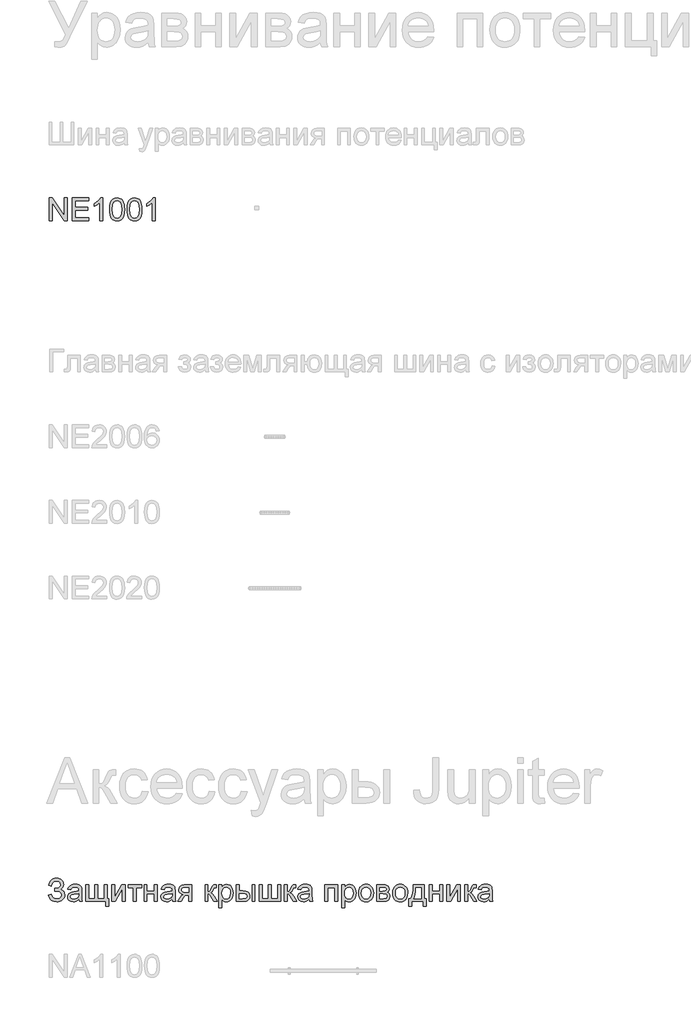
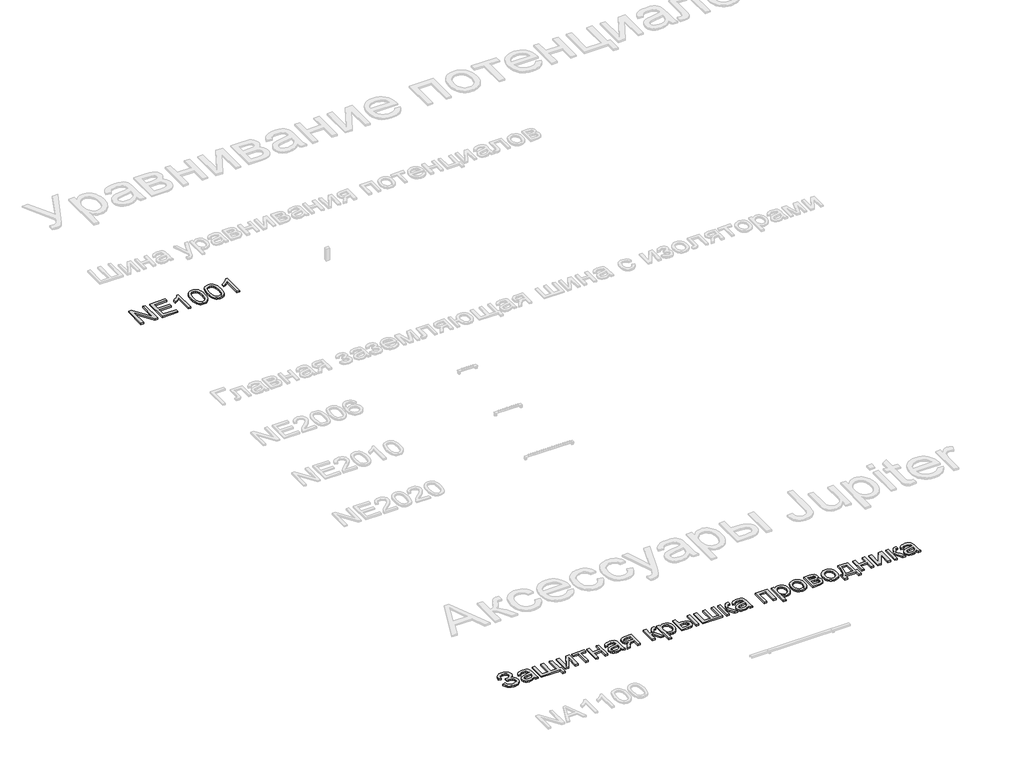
# One storey, part 79 of 124: 2 proxies.
"""IFC4 building model written with IfcOpenShell, lengths in millimetres."""

from ifc_helpers import new_model, si_unit, origin, origin_with_axes, place, context, project, spatial, polyline, outline, extrude, element, save

model = new_model("IFC4")

# Units and contexts
model_context = context("Model", 3, world=origin())
ifc_project = project(units=[si_unit("LENGTHUNIT", "METRE", prefix="MILLI")], contexts=[model_context])

# Site, building, storey
site = spatial("IfcSite", under=ifc_project)
building = spatial("IfcBuilding", under=site)
storey = spatial("IfcBuildingStorey", under=building, Name="Этаж 01", Elevation=0.0)

# Proxies
placement = place(None, origin())
element("IfcBuildingElementProxy", 1, Name="300", ObjectType="300", at=placement, inside=storey, context=model_context, shape_type="SweptSolid", body=[
    extrude(outline(polyline([(45239.8675381, -51074.498362), (45239.8675381, -50773.1294316), (45280.1874048, -50773.1294316), (45437.6408988, -51011.8848464), (45437.6408988, -50773.1294316), (45475.3120151, -50773.1294316), (45475.3120151, -51074.498362), (45434.9921484, -51074.498362), (45277.5386545, -50835.6693707), (45277.5386545, -51074.498362), (45239.8675381, -51074.498362)])), origin_with_axes(), (0.0, 0.0, 1.0), 20.0),
    extrude(outline(polyline([(45541.2364686, -51074.498362), (45541.2364686, -50773.1294316), (45757.8453874, -50773.1294316), (45757.8453874, -50810.8005479), (45578.9075849, -50810.8005479), (45578.9075849, -50900.2694491), (45748.4276083, -50900.2694491), (45748.4276083, -50937.9405654), (45578.9075849, -50937.9405654), (45578.9075849, -51036.8272457), (45762.5542769, -51036.8272457), (45762.5542769, -51074.498362), (45541.2364686, -51074.498362)])), origin_with_axes(), (0.0, 0.0, 1.0), 20.0),
    extrude(outline(polyline([(45946.2009689, -51074.498362), (45908.5298526, -51074.498362), (45908.5298526, -50839.6424963), (45872.8452991, -50865.0631421), (45833.18762, -50884.0826413), (45833.18762, -50848.4716642), (45862.7745294, -50832.3768269), (45888.4067074, -50813.228569), (45908.612626, -50792.8663006), (45921.9207572, -50773.1294316), (45946.2009689, -50773.1294316), (45946.2009689, -51074.498362)])), origin_with_axes(), (0.0, 0.0, 1.0), 20.0),
    extrude(outline(polyline([(46035.6698701, -50926.2419179), (46038.4381821, -50878.0033913), (46046.7431182, -50839.5321317), (46060.5019048, -50810.2395278), (46079.6317685, -50789.5369685), (46104.2706652, -50777.2313158), (46134.5565504, -50773.1294316), (46157.7699043, -50775.5574527), (46178.555237, -50782.8415162), (46195.9376613, -50794.6965135), (46208.9422898, -50810.8373361), (46218.7647391, -50831.1260281), (46226.6006256, -50855.4246339), (46231.7325794, -50886.2807362), (46233.4432307, -50926.2419179), (46230.7025099, -50974.2045331), (46222.4803473, -51012.5838222), (46208.8043341, -51041.9040172), (46189.7020615, -51062.68935), (46165.0079826, -51075.0777761), (46134.5565504, -51079.2072515), (46113.8080059, -51077.4138268), (46095.4139061, -51072.0335526), (46079.3742511, -51063.066429), (46065.6890409, -51050.5124559), (46052.5556537, -51027.8187353), (46043.1746628, -50999.5424055), (46037.5460683, -50965.6834664), (46035.6698701, -50926.2419179)]), holes=[polyline([(46073.3409864, -50926.1683415), (46077.7555704, -50985.4249339), (46083.2738003, -51005.6929326), (46090.9993222, -51019.7207329), (46110.7177971, -51036.0822847), (46134.5565504, -51041.5361352), (46158.3953037, -51036.0638906), (46178.1137786, -51019.6471565), (46185.8393005, -51005.5963636), (46191.3575305, -50985.3329634), (46195.7721144, -50926.1683415), (46191.5046833, -50868.2453214), (46186.1703943, -50848.0440013), (46178.7023898, -50833.682808), (46159.0207031, -50816.5211129), (46134.115092, -50810.8005479), (46110.5338561, -50815.8405312), (46091.5879334, -50830.9604812), (46083.6048941, -50846.595466), (46077.9027232, -50867.6751043), (46073.3409864, -50926.1683415)])]), origin_with_axes(), (0.0, 0.0, 1.0), 20.0),
    extrude(outline(polyline([(46266.4054575, -50926.2419179), (46269.1737695, -50878.0033913), (46277.4787055, -50839.5321317), (46291.2374922, -50810.2395278), (46310.3673559, -50789.5369685), (46335.0062525, -50777.2313158), (46365.2921378, -50773.1294316), (46388.5054917, -50775.5574527), (46409.2908244, -50782.8415162), (46426.6732487, -50794.6965135), (46439.6778772, -50810.8373361), (46449.5003265, -50831.1260281), (46457.336213, -50855.4246339), (46462.4681668, -50886.2807362), (46464.1788181, -50926.2419179), (46461.4380972, -50974.2045331), (46453.2159346, -51012.5838222), (46439.5399215, -51041.9040172), (46420.4376489, -51062.68935), (46395.7435699, -51075.0777761), (46365.2921378, -51079.2072515), (46344.5435933, -51077.4138268), (46326.1494935, -51072.0335526), (46310.1098385, -51063.066429), (46296.4246283, -51050.5124559), (46283.2912411, -51027.8187353), (46273.9102502, -50999.5424055), (46268.2816557, -50965.6834664), (46266.4054575, -50926.2419179)]), holes=[polyline([(46304.0765738, -50926.1683415), (46308.4911577, -50985.4249339), (46314.0093877, -51005.6929326), (46321.7349096, -51019.7207329), (46341.4533845, -51036.0822847), (46365.2921378, -51041.5361352), (46389.1308911, -51036.0638906), (46408.849366, -51019.6471565), (46416.5748879, -51005.5963636), (46422.0931178, -50985.3329634), (46426.5077018, -50926.1683415), (46422.2402706, -50868.2453214), (46416.9059817, -50848.0440013), (46409.4379772, -50833.682808), (46389.7562905, -50816.5211129), (46364.8506794, -50810.8005479), (46341.2694435, -50815.8405312), (46322.3235208, -50830.9604812), (46314.3404815, -50846.595466), (46308.6383105, -50867.6751043), (46304.0765738, -50926.1683415)])]), origin_with_axes(), (0.0, 0.0, 1.0), 20.0),
    extrude(outline(polyline([(46638.407731, -51074.498362), (46600.7366147, -51074.498362), (46600.7366147, -50839.6424963), (46565.0520612, -50865.0631421), (46525.3943821, -50884.0826413), (46525.3943821, -50848.4716642), (46554.9812916, -50832.3768269), (46580.6134696, -50813.228569), (46600.8193882, -50792.8663006), (46614.1275193, -50773.1294316), (46638.407731, -50773.1294316), (46638.407731, -51074.498362)])), origin_with_axes(), (0.0, 0.0, 1.0), 20.0),
])
element("IfcBuildingElementProxy", 2, Name="300", ObjectType="300", at=placement, inside=storey, context=model_context, shape_type="SweptSolid", body=[
    extrude(outline(polyline([(45225.7408695, -59989.7383503), (45263.4119858, -59980.3205712), (45271.367434, -60000.7104308), (45286.5517633, -60021.1186845), (45308.4131509, -60036.4317726), (45336.3997737, -60041.5361352), (45364.7542785, -60037.7009654), (45386.3949368, -60026.195456), (45400.1077382, -60009.2636872), (45404.678672, -59989.1497391), (45399.6846739, -59968.0792978), (45384.7026797, -59951.8097166), (45361.1122467, -59941.4078532), (45330.2929326, -59937.9405654), (45310.5008812, -59937.9405654), (45310.5008812, -59900.2694491), (45353.1384045, -59897.2160285), (45367.0351468, -59891.7897691), (45379.2212379, -59881.6178319), (45387.719312, -59868.2177303), (45390.5520034, -59853.1069773), (45386.7812129, -59835.3658681), (45375.4688416, -59820.1079623), (45357.7185353, -59809.5957343), (45334.6339401, -59806.0916583), (45313.7658339, -59808.7863939), (45296.1902716, -59816.8706008), (45282.7257906, -59829.4061798), (45274.1909283, -59845.4550318), (45268.1208754, -59872.0161119), (45230.4497591, -59862.5983328), (45242.153005, -59821.3955493), (45251.5673352, -59805.2087415), (45263.3568035, -59791.9649897), (45277.52141, -59781.6642938), (45294.0611546, -59774.3066539), (45312.9760373, -59769.89207), (45334.2660581, -59768.420542), (45354.7777786, -59769.9495516), (45373.0500175, -59774.5365802), (45389.0827747, -59782.1816279), (45402.8760502, -59792.8846947), (45413.9653931, -59805.6341051), (45421.8863523, -59819.4181836), (45426.6389278, -59834.2369302), (45428.2231197, -59850.0903449), (45425.7583103, -59869.914586), (45418.3638822, -59887.3751852), (45406.0398354, -59902.4721425), (45388.7861698, -59915.2054581), (45409.7370494, -59924.8531634), (45426.9723209, -59941.1411388), (45438.5054214, -59962.6714325), (45442.3497883, -59988.0460931), (45440.5057798, -60006.6770169), (45434.9737543, -60023.7214496), (45425.7537118, -60039.1793912), (45412.8456523, -60053.0508417), (45396.8933693, -60064.494271), (45378.5406562, -60072.6681491), (45357.7875132, -60077.5724759), (45334.6339401, -60079.2072515), (45296.4293949, -60073.6154452), (45280.0724417, -60066.6256873), (45265.5457014, -60056.8400262), (45252.8491741, -60044.258462), (45241.9828596, -60028.8809946), (45225.7408695, -59989.7383503)])), origin_with_axes(), (0.0, 0.0, 1.0), 20.0),
    extrude(outline(polyline([(45630.7053698, -60046.2450248), (45612.7067432, -60061.6776745), (45594.1746877, -60071.7760352), (45574.686139, -60077.3494475), (45553.8180328, -60079.2072515), (45522.3365311, -60074.7374853), (45499.1139802, -60061.3281866), (45484.7941735, -60040.9659181), (45480.0209046, -60015.6372428), (45481.8235264, -60000.0206521), (45487.2313917, -59985.8388012), (45495.5731159, -59973.6986953), (45506.1773145, -59964.2073398), (45532.5544535, -59951.8465048), (45565.1487983, -59946.1811221), (45603.6660432, -59940.2214338), (45630.4846406, -59933.2316759), (45630.7053698, -59924.8439664), (45628.1118018, -59908.0317592), (45620.3310976, -59897.0320875), (45602.9302792, -59888.8651072), (45578.6868557, -59886.1427805), (45556.246054, -59887.9545993), (45540.574281, -59893.3900558), (45529.887309, -59903.4424313), (45522.4009104, -59919.1050072), (45484.7297941, -59914.3961177), (45491.2688966, -59893.794726), (45501.0269665, -59877.6079182), (45514.9145118, -59865.228689), (45533.8420405, -59856.0500333), (45556.991015, -59850.3662564), (45583.542898, -59848.4716642), (45609.0095292, -59850.1455272), (45629.1970536, -59855.1671165), (45644.4181712, -59862.7178944), (45654.9855815, -59871.9793237), (45661.9937335, -59883.4296508), (45666.5370762, -59897.5471223), (45668.3764861, -59930.5093491), (45668.3764861, -59977.3775153), (45670.2894725, -60042.8237222), (45677.7942652, -60074.498362), (45640.1231489, -60074.498362), (45630.7053698, -60046.2450248)]), holes=[polyline([(45630.7053698, -59970.9027922), (45569.9312642, -59982.4542868), (45537.5208604, -59988.5611279), (45522.8423688, -59998.4939418), (45517.6920209, -60012.9884924), (45520.4971211, -60024.1904992), (45528.9124218, -60033.3691549), (45542.7539818, -60039.4943902), (45561.8378603, -60041.5361352), (45582.0713701, -60039.282858), (45599.950435, -60032.5230264), (45614.4449856, -60022.5626213), (45624.5249523, -60010.707624), (45628.9947185, -59998.4939418), (45630.4846406, -59981.57137), (45630.7053698, -59970.9027922)])]), origin_with_axes(), (0.0, 0.0, 1.0), 20.0),
    extrude(outline(polyline([(45720.1742711, -59853.1805537), (45757.8453874, -59853.1805537), (45757.8453874, -60036.8272457), (45842.605399, -60036.8272457), (45842.605399, -59853.1805537), (45880.2765154, -59853.1805537), (45880.2765154, -60036.8272457), (45965.036527, -60036.8272457), (45965.036527, -59853.1805537), (46002.7076433, -59853.1805537), (46002.7076433, -60036.8272457), (46026.252091, -60036.8272457), (46026.252091, -60135.713926), (45988.5809747, -60135.713926), (45988.5809747, -60074.498362), (45720.1742711, -60074.498362), (45720.1742711, -59853.1805537)])), origin_with_axes(), (0.0, 0.0, 1.0), 20.0),
    extrude(outline(polyline([(46063.9232073, -59853.1805537), (46101.5943237, -59853.1805537), (46101.5943237, -60021.9648131), (46194.1534336, -59853.1805537), (46242.8610098, -59853.1805537), (46242.8610098, -60074.498362), (46205.1898935, -60074.498362), (46205.1898935, -59906.7441722), (46113.2193947, -60074.498362), (46063.9232073, -60074.498362), (46063.9232073, -59853.1805537)])), origin_with_axes(), (0.0, 0.0, 1.0), 20.0),
    extrude(outline(polyline([(46280.5321261, -59853.1805537), (46459.4699286, -59853.1805537), (46459.4699286, -59890.85167), (46388.8365855, -59890.85167), (46388.8365855, -60074.498362), (46351.1654692, -60074.498362), (46351.1654692, -59890.85167), (46280.5321261, -59890.85167), (46280.5321261, -59853.1805537)])), origin_with_axes(), (0.0, 0.0, 1.0), 20.0),
    extrude(outline(polyline([(46492.4321553, -59853.1805537), (46530.1032716, -59853.1805537), (46530.1032716, -59937.9405654), (46628.9899519, -59937.9405654), (46628.9899519, -59853.1805537), (46666.6610682, -59853.1805537), (46666.6610682, -60074.498362), (46628.9899519, -60074.498362), (46628.9899519, -59975.6116817), (46530.1032716, -59975.6116817), (46530.1032716, -60074.498362), (46492.4321553, -60074.498362), (46492.4321553, -59853.1805537)])), origin_with_axes(), (0.0, 0.0, 1.0), 20.0),
    extrude(outline(polyline([(46864.4344288, -60046.2450248), (46846.4358022, -60061.6776745), (46827.9037467, -60071.7760352), (46808.415198, -60077.3494475), (46787.5470919, -60079.2072515), (46756.0655901, -60074.7374853), (46732.8430392, -60061.3281866), (46718.5232325, -60040.9659181), (46713.7499636, -60015.6372428), (46715.5525854, -60000.0206521), (46720.9604507, -59985.8388012), (46729.302175, -59973.6986953), (46739.9063735, -59964.2073398), (46766.2835125, -59951.8465048), (46798.8778573, -59946.1811221), (46837.3951022, -59940.2214338), (46864.2136997, -59933.2316759), (46864.4344288, -59924.8439664), (46861.8408608, -59908.0317592), (46854.0601566, -59897.0320875), (46836.6593382, -59888.8651072), (46812.4159147, -59886.1427805), (46789.975113, -59887.9545993), (46774.30334, -59893.3900558), (46763.6163681, -59903.4424313), (46756.1299695, -59919.1050072), (46718.4588532, -59914.3961177), (46724.9979556, -59893.794726), (46734.7560256, -59877.6079182), (46748.6435709, -59865.228689), (46767.5710995, -59856.0500333), (46790.7200741, -59850.3662564), (46817.2719571, -59848.4716642), (46842.7385882, -59850.1455272), (46862.9261127, -59855.1671165), (46878.1472302, -59862.7178944), (46888.7146405, -59871.9793237), (46895.7227925, -59883.4296508), (46900.2661352, -59897.5471223), (46902.1055452, -59930.5093491), (46902.1055452, -59977.3775153), (46904.0185315, -60042.8237222), (46911.5233242, -60074.498362), (46873.8522079, -60074.498362), (46864.4344288, -60046.2450248)]), holes=[polyline([(46864.4344288, -59970.9027922), (46803.6603232, -59982.4542868), (46771.2499195, -59988.5611279), (46756.5714279, -59998.4939418), (46751.4210799, -60012.9884924), (46754.2261801, -60024.1904992), (46762.6414808, -60033.3691549), (46776.4830409, -60039.4943902), (46795.5669194, -60041.5361352), (46815.8004291, -60039.282858), (46833.6794941, -60032.5230264), (46848.1740447, -60022.5626213), (46858.2540113, -60010.707624), (46862.7237776, -59998.4939418), (46864.2136997, -59981.57137), (46864.4344288, -59970.9027922)])]), origin_with_axes(), (0.0, 0.0, 1.0), 20.0),
    extrude(outline(polyline([(47123.4233535, -59853.1805537), (47123.4233535, -60074.498362), (47085.7522371, -60074.498362), (47085.7522371, -59989.7383503), (47065.2244218, -59989.7383503), (47037.2653902, -59994.5208163), (47026.1001716, -60004.9502708), (47010.9986157, -60026.6737026), (46980.9794449, -60074.498362), (46937.4222167, -60074.498362), (46975.2404858, -60014.018562), (46991.9423284, -59992.3135243), (47007.3197958, -59982.675016), (46981.5680561, -59974.7839472), (46963.468262, -59959.7927559), (46952.7628959, -59939.8535518), (46949.1944405, -59917.1184445), (46954.068877, -59891.3299166), (46968.6921863, -59870.9124659), (46992.5493337, -59857.6135317), (47025.1252843, -59853.1805537), (47123.4233535, -59853.1805537)]), holes=[polyline([(47085.7522371, -59890.85167), (47036.0881678, -59890.85167), (47010.4375957, -59893.0313708), (46995.8786657, -59899.5704733), (46989.1188341, -59909.0342376), (46986.8655568, -59919.987924), (46990.1856919, -59934.3445189), (47000.1460969, -59944.3049239), (47018.5493937, -59950.1266565), (47047.1982041, -59952.067234), (47085.7522371, -59952.067234), (47085.7522371, -59890.85167)])]), origin_with_axes(), (0.0, 0.0, 1.0), 20.0),
    extrude(outline(polyline([(47297.6522664, -59853.1805537), (47335.3233827, -59853.1805537), (47335.3233827, -59947.3583445), (47350.6456678, -59945.6660873), (47360.5600875, -59940.5893158), (47369.3340731, -59927.3455639), (47381.2350557, -59901.1523659), (47398.4151448, -59867.1232813), (47413.5718831, -59856.0500333), (47441.1262445, -59853.1805537), (47448.3367316, -59853.1805537), (47448.3367316, -59891.0723992), (47438.1831885, -59890.85167), (47419.7890888, -59894.8247956), (47406.8396425, -59919.620042), (47391.6461161, -59946.4386395), (47370.3457486, -59959.5720267), (47382.2835194, -59964.874126), (47394.1109255, -59974.2321242), (47417.434644, -60005.1158177), (47457.7545107, -60074.498362), (47414.9330464, -60074.498362), (47375.4225202, -60006.5873457), (47355.5568924, -59977.8557619), (47346.267872, -59972.6410346), (47335.3233827, -59970.9027922), (47335.3233827, -60074.498362), (47297.6522664, -60074.498362), (47297.6522664, -59853.1805537)])), origin_with_axes(), (0.0, 0.0, 1.0), 20.0),
    extrude(outline(polyline([(47481.2989584, -60159.2583737), (47481.2989584, -59853.1805537), (47518.9700747, -59853.1805537), (47518.9700747, -59890.115906), (47531.2573333, -59871.8965502), (47545.0161199, -59858.8827246), (47561.0557749, -59851.0744293), (47580.1856387, -59848.4716642), (47605.6614668, -59852.1136959), (47627.9367216, -59863.0397912), (47646.073304, -59880.5877623), (47659.1331148, -59904.0954218), (47667.0241836, -59931.8521184), (47669.6545399, -59962.1472007), (47666.6838928, -59994.3644664), (47657.7719514, -60023.1788237), (47643.2038244, -60047.1279416), (47623.2646203, -60064.7494891), (47600.0420694, -60075.5928109), (47575.6239019, -60079.2072515), (47558.305857, -60076.7884274), (47542.8456162, -60069.5319551), (47529.6110614, -60058.5782687), (47518.9700747, -60045.0678024), (47518.9700747, -60159.2583737), (47481.2989584, -60159.2583737)]), holes=[polyline([(47518.9700747, -59965.6052914), (47523.0443678, -59999.3768586), (47535.2672471, -60022.9948827), (47553.3026619, -60036.9008221), (47574.8145615, -60041.5361352), (47596.6759491, -60036.7352752), (47615.1712164, -60022.3326951), (47627.7803718, -59997.8501483), (47631.9834236, -59962.8093883), (47627.8815393, -59929.2217621), (47615.5758866, -59905.2726442), (47597.5680629, -59890.9252464), (47576.3596659, -59886.1427805), (47555.0684954, -59891.2287491), (47536.370893, -59906.4866548), (47523.3202793, -59931.4382511), (47518.9700747, -59965.6052914)])]), origin_with_axes(), (0.0, 0.0, 1.0), 20.0),
    extrude(outline(polyline([(47919.2256854, -59853.1805537), (47956.8968017, -59853.1805537), (47956.8968017, -60074.498362), (47919.2256854, -60074.498362), (47919.2256854, -59853.1805537)])), origin_with_axes(), (0.0, 0.0, 1.0), 20.0),
    extrude(outline(polyline([(47712.0345457, -59853.1805537), (47749.705662, -59853.1805537), (47749.705662, -59933.2316759), (47796.2795226, -59933.2316759), (47836.53501, -59937.9497624), (47852.7517082, -59943.8473707), (47866.3610427, -59952.1040222), (47877.1284889, -59962.4346085), (47884.8195218, -59974.554021), (47889.4341416, -59988.4622596), (47890.9723482, -60004.1593245), (47885.8128032, -60031.1158777), (47870.3341683, -60053.8601821), (47858.4722732, -60062.8893858), (47843.5247679, -60069.338817), (47804.3729265, -60074.498362), (47712.0345457, -60074.498362), (47712.0345457, -59853.1805537)]), holes=[polyline([(47749.705662, -60036.8272457), (47788.4068479, -60036.8272457), (47818.4076246, -60034.84988), (47838.3652229, -60028.9177828), (47849.5672296, -60018.7918309), (47853.3012319, -60004.2329009), (47850.5329199, -59991.9272482), (47842.2279838, -59981.0563352), (47824.4684805, -59973.4411779), (47793.3364667, -59970.9027922), (47749.705662, -59970.9027922), (47749.705662, -60036.8272457)])]), origin_with_axes(), (0.0, 0.0, 1.0), 20.0),
    extrude(outline(polyline([(48013.4034762, -59853.1805537), (48051.0745925, -59853.1805537), (48051.0745925, -60036.8272457), (48135.8346042, -60036.8272457), (48135.8346042, -59853.1805537), (48173.5057205, -59853.1805537), (48173.5057205, -60036.8272457), (48258.2657322, -60036.8272457), (48258.2657322, -59853.1805537), (48295.9368485, -59853.1805537), (48295.9368485, -60074.498362), (48013.4034762, -60074.498362), (48013.4034762, -59853.1805537)])), origin_with_axes(), (0.0, 0.0, 1.0), 20.0),
    extrude(outline(polyline([(48347.7346334, -59853.1805537), (48385.4057497, -59853.1805537), (48385.4057497, -59947.3583445), (48400.7280348, -59945.6660873), (48410.6424546, -59940.5893158), (48419.4164402, -59927.3455639), (48431.3174227, -59901.1523659), (48448.4975119, -59867.1232813), (48463.6542501, -59856.0500333), (48491.2086115, -59853.1805537), (48498.4190986, -59853.1805537), (48498.4190986, -59891.0723992), (48488.2655556, -59890.85167), (48469.8714558, -59894.8247956), (48456.9220096, -59919.620042), (48441.7284832, -59946.4386395), (48420.4281156, -59959.5720267), (48432.3658864, -59964.874126), (48444.1932925, -59974.2321242), (48467.517011, -60005.1158177), (48507.8368777, -60074.498362), (48465.0154135, -60074.498362), (48425.5048872, -60006.5873457), (48405.6392594, -59977.8557619), (48396.3502391, -59972.6410346), (48385.4057497, -59970.9027922), (48385.4057497, -60074.498362), (48347.7346334, -60074.498362), (48347.7346334, -59853.1805537)])), origin_with_axes(), (0.0, 0.0, 1.0), 20.0),
    extrude(outline(polyline([(48672.6480115, -60046.2450248), (48654.6493849, -60061.6776745), (48636.1173294, -60071.7760352), (48616.6287807, -60077.3494475), (48595.7606746, -60079.2072515), (48564.2791728, -60074.7374853), (48541.0566219, -60061.3281866), (48526.7368152, -60040.9659181), (48521.9635463, -60015.6372428), (48523.7661681, -60000.0206521), (48529.1740334, -59985.8388012), (48537.5157577, -59973.6986953), (48548.1199562, -59964.2073398), (48574.4970952, -59951.8465048), (48607.09144, -59946.1811221), (48645.6086849, -59940.2214338), (48672.4272823, -59933.2316759), (48672.6480115, -59924.8439664), (48670.0544435, -59908.0317592), (48662.2737393, -59897.0320875), (48644.8729209, -59888.8651072), (48620.6294974, -59886.1427805), (48598.1886957, -59887.9545993), (48582.5169227, -59893.3900558), (48571.8299508, -59903.4424313), (48564.3435522, -59919.1050072), (48526.6724359, -59914.3961177), (48533.2115383, -59893.794726), (48542.9696082, -59877.6079182), (48556.8571536, -59865.228689), (48575.7846822, -59856.0500333), (48598.9336568, -59850.3662564), (48625.4855398, -59848.4716642), (48650.9521709, -59850.1455272), (48671.1396954, -59855.1671165), (48686.3608129, -59862.7178944), (48696.9282232, -59871.9793237), (48703.9363752, -59883.4296508), (48708.4797179, -59897.5471223), (48710.3191278, -59930.5093491), (48710.3191278, -59977.3775153), (48712.2321142, -60042.8237222), (48719.7369069, -60074.498362), (48682.0657906, -60074.498362), (48672.6480115, -60046.2450248)]), holes=[polyline([(48672.6480115, -59970.9027922), (48611.8739059, -59982.4542868), (48579.4635022, -59988.5611279), (48564.7850106, -59998.4939418), (48559.6346626, -60012.9884924), (48562.4397628, -60024.1904992), (48570.8550635, -60033.3691549), (48584.6966235, -60039.4943902), (48603.780502, -60041.5361352), (48624.0140118, -60039.282858), (48641.8930767, -60032.5230264), (48656.3876274, -60022.5626213), (48666.467594, -60010.707624), (48670.9373603, -59998.4939418), (48672.4272823, -59981.57137), (48672.6480115, -59970.9027922)])]), origin_with_axes(), (0.0, 0.0, 1.0), 20.0),
    extrude(outline(polyline([(48879.8391512, -59853.1805537), (49049.3591746, -59853.1805537), (49049.3591746, -60074.498362), (49011.6880583, -60074.498362), (49011.6880583, -59890.85167), (48917.5102675, -59890.85167), (48917.5102675, -60074.498362), (48879.8391512, -60074.498362), (48879.8391512, -59853.1805537)])), origin_with_axes(), (0.0, 0.0, 1.0), 20.0),
    extrude(outline(polyline([(49105.8658491, -60159.2583737), (49105.8658491, -59853.1805537), (49143.5369654, -59853.1805537), (49143.5369654, -59890.115906), (49155.824224, -59871.8965502), (49169.5830106, -59858.8827246), (49185.6226656, -59851.0744293), (49204.7525294, -59848.4716642), (49230.2283575, -59852.1136959), (49252.5036123, -59863.0397912), (49270.6401947, -59880.5877623), (49283.7000055, -59904.0954218), (49291.5910743, -59931.8521184), (49294.2214306, -59962.1472007), (49291.2507835, -59994.3644664), (49282.3388421, -60023.1788237), (49267.7707151, -60047.1279416), (49247.831511, -60064.7494891), (49224.6089601, -60075.5928109), (49200.1907926, -60079.2072515), (49182.8727477, -60076.7884274), (49167.4125069, -60069.5319551), (49154.1779521, -60058.5782687), (49143.5369654, -60045.0678024), (49143.5369654, -60159.2583737), (49105.8658491, -60159.2583737)]), holes=[polyline([(49143.5369654, -59965.6052914), (49147.6112585, -59999.3768586), (49159.8341378, -60022.9948827), (49177.8695526, -60036.9008221), (49199.3814522, -60041.5361352), (49221.2428398, -60036.7352752), (49239.7381071, -60022.3326951), (49252.3472625, -59997.8501483), (49256.5503143, -59962.8093883), (49252.44843, -59929.2217621), (49240.1427773, -59905.2726442), (49222.1349536, -59890.9252464), (49200.9265566, -59886.1427805), (49179.6353861, -59891.2287491), (49160.9377837, -59906.4866548), (49147.88717, -59931.4382511), (49143.5369654, -59965.6052914)])]), origin_with_axes(), (0.0, 0.0, 1.0), 20.0),
    extrude(outline(polyline([(49327.1836574, -59963.8394579), (49329.2208039, -59935.1768519), (49335.3322436, -59910.4781745), (49345.5179763, -59889.7434255), (49359.7780021, -59872.972605), (49374.134597, -59862.2534434), (49389.9811139, -59854.5968994), (49407.317553, -59850.002973), (49426.1439141, -59848.4716642), (49446.9269475, -59850.336366), (49465.7188197, -59855.9304716), (49482.5195306, -59865.2539809), (49497.3290801, -59878.306894), (49509.4163029, -59894.6477523), (49518.0500335, -59913.8350977), (49523.2302719, -59935.8689299), (49524.957018, -59960.7492491), (49521.9035974, -59998.8066415), (49512.7433357, -60027.7773486), (49497.7429474, -60049.4731893), (49477.1691468, -60065.7059823), (49452.7325853, -60075.8319342), (49426.1439141, -60079.2072515), (49405.057378, -60077.3494475), (49386.0907618, -60071.7760352), (49369.2440657, -60062.4870149), (49354.5172896, -60049.4823863), (49342.5588255, -60032.9828788), (49334.0170654, -60013.2092216), (49328.8920094, -59990.1614146), (49327.1836574, -59963.8394579)]), holes=[polyline([(49364.8547737, -59963.7658815), (49369.2141753, -59997.8593454), (49382.2923802, -60022.1487541), (49401.974067, -60036.6892899), (49426.1439141, -60041.5361352), (49450.2033965, -60036.6616988), (49469.8482951, -60022.0383895), (49482.9265, -59997.427084), (49487.2859017, -59962.5886591), (49482.8989089, -59929.4884766), (49469.7379305, -59905.5301616), (49450.0654408, -59890.9896258), (49426.1439141, -59886.1427805), (49401.974067, -59890.9712317), (49382.2923802, -59905.4565852), (49369.2141753, -59929.6908117), (49364.8547737, -59963.7658815)])]), origin_with_axes(), (0.0, 0.0, 1.0), 20.0),
    extrude(outline(polyline([(49567.3370238, -59853.1805537), (49650.3312019, -59853.1805537), (49677.0118436, -59854.4405495), (49695.8382047, -59858.220537), (49709.6889618, -59865.3574477), (49721.4427916, -59876.6882132), (49729.4718161, -59891.4494783), (49732.1481577, -59908.8778878), (49730.5294769, -59922.9217829), (49725.6734345, -59935.0342976), (49717.5616365, -59945.2706141), (49706.1756888, -59953.6859148), (49720.1184164, -59961.5126042), (49731.4859701, -59974.1033655), (49739.0459451, -59990.4649173), (49741.5659367, -60009.6039781), (49735.1831841, -60038.3171678), (49720.0080518, -60058.5322834), (49695.9853575, -60070.5068424), (49663.059919, -60074.498362), (49567.3370238, -60074.498362), (49567.3370238, -59853.1805537)]), holes=[polyline([(49605.0081401, -59937.9405654), (49642.237798, -59937.9405654), (49672.9559446, -59936.027579), (49687.8919536, -59928.3756335), (49692.8307694, -59922.0480632), (49694.4770413, -59914.5432705), (49691.5891677, -59903.3044755), (49682.9255467, -59896.0755943), (49667.2721678, -59892.1576511), (49643.4150204, -59890.85167), (49605.0081401, -59890.85167), (49605.0081401, -59937.9405654)]), polyline([(49605.0081401, -60036.8272457), (49651.2141187, -60036.8272457), (49676.3956413, -60035.1257915), (49692.196173, -60030.0214288), (49700.675853, -60020.7416055), (49703.8948204, -60006.5137693), (49702.2853367, -59997.0867932), (49697.4568855, -59988.3771869), (49690.0440633, -59981.562173), (49680.6814665, -59977.8189737), (49647.5352988, -59975.6116817), (49605.0081401, -59975.6116817), (49605.0081401, -60036.8272457)])]), origin_with_axes(), (0.0, 0.0, 1.0), 20.0),
    extrude(outline(polyline([(49779.237053, -59963.8394579), (49781.2741996, -59935.1768519), (49787.3856392, -59910.4781745), (49797.571372, -59889.7434255), (49811.8313978, -59872.972605), (49826.1879927, -59862.2534434), (49842.0345096, -59854.5968994), (49859.3709486, -59850.002973), (49878.1973097, -59848.4716642), (49898.9803432, -59850.336366), (49917.7722154, -59855.9304716), (49934.5729262, -59865.2539809), (49949.3824758, -59878.306894), (49961.4696986, -59894.6477523), (49970.1034292, -59913.8350977), (49975.2836675, -59935.8689299), (49977.0104136, -59960.7492491), (49973.9569931, -59998.8066415), (49964.7967314, -60027.7773486), (49949.796343, -60049.4731893), (49929.2225425, -60065.7059823), (49904.7859809, -60075.8319342), (49878.1973097, -60079.2072515), (49857.1107736, -60077.3494475), (49838.1441575, -60071.7760352), (49821.2974614, -60062.4870149), (49806.5706853, -60049.4823863), (49794.6122212, -60032.9828788), (49786.0704611, -60013.2092216), (49780.945405, -59990.1614146), (49779.237053, -59963.8394579)]), holes=[polyline([(49816.9081693, -59963.7658815), (49821.267571, -59997.8593454), (49834.3457759, -60022.1487541), (49854.0274627, -60036.6892899), (49878.1973097, -60041.5361352), (49902.2567922, -60036.6616988), (49921.9016908, -60022.0383895), (49934.9798957, -59997.427084), (49939.3392973, -59962.5886591), (49934.9523045, -59929.4884766), (49921.7913262, -59905.5301616), (49902.1188365, -59890.9896258), (49878.1973097, -59886.1427805), (49854.0274627, -59890.9712317), (49834.3457759, -59905.4565852), (49821.267571, -59929.6908117), (49816.9081693, -59963.7658815)])]), origin_with_axes(), (0.0, 0.0, 1.0), 20.0),
    extrude(outline(polyline([(50052.3526463, -59853.1805537), (50193.6193324, -59853.1805537), (50193.6193324, -60036.8272457), (50221.8726696, -60036.8272457), (50221.8726696, -60135.713926), (50184.2015533, -60135.713926), (50184.2015533, -60074.498362), (50028.8081986, -60074.498362), (50028.8081986, -60135.713926), (49991.1370823, -60135.713926), (49991.1370823, -60036.8272457), (50014.6815299, -60036.8272457), (50031.7972398, -60005.897567), (50043.7809958, -59964.979892), (50050.6327979, -59914.074221), (50052.3526463, -59853.1805537)]), holes=[polyline([(50085.314873, -59890.85167), (50082.2246643, -59936.9748752), (50076.4857051, -59976.6785395), (50068.0979956, -60009.962663), (50057.0615358, -60036.8272457), (50155.9482161, -60036.8272457), (50155.9482161, -59890.85167), (50085.314873, -59890.85167)])]), origin_with_axes(), (0.0, 0.0, 1.0), 20.0),
    extrude(outline(polyline([(50264.2526755, -59853.1805537), (50301.9237918, -59853.1805537), (50301.9237918, -59937.9405654), (50400.8104721, -59937.9405654), (50400.8104721, -59853.1805537), (50438.4815884, -59853.1805537), (50438.4815884, -60074.498362), (50400.8104721, -60074.498362), (50400.8104721, -59975.6116817), (50301.9237918, -59975.6116817), (50301.9237918, -60074.498362), (50264.2526755, -60074.498362), (50264.2526755, -59853.1805537)])), origin_with_axes(), (0.0, 0.0, 1.0), 20.0),
    extrude(outline(polyline([(50494.9882629, -59853.1805537), (50532.6593792, -59853.1805537), (50532.6593792, -60021.9648131), (50625.2184891, -59853.1805537), (50673.9260653, -59853.1805537), (50673.9260653, -60074.498362), (50636.254949, -60074.498362), (50636.254949, -59906.7441722), (50544.2844502, -60074.498362), (50494.9882629, -60074.498362), (50494.9882629, -59853.1805537)])), origin_with_axes(), (0.0, 0.0, 1.0), 20.0),
    extrude(outline(polyline([(50730.4327398, -59853.1805537), (50768.1038561, -59853.1805537), (50768.1038561, -59947.3583445), (50783.4261412, -59945.6660873), (50793.3405609, -59940.5893158), (50802.1145465, -59927.3455639), (50814.0155291, -59901.1523659), (50831.1956182, -59867.1232813), (50846.3523564, -59856.0500333), (50873.9067179, -59853.1805537), (50881.117205, -59853.1805537), (50881.117205, -59891.0723992), (50870.9636619, -59890.85167), (50852.5695622, -59894.8247956), (50839.6201159, -59919.620042), (50824.4265895, -59946.4386395), (50803.126222, -59959.5720267), (50815.0639928, -59964.874126), (50826.8913989, -59974.2321242), (50850.2151174, -60005.1158177), (50890.5349841, -60074.498362), (50847.7135198, -60074.498362), (50808.2029935, -60006.5873457), (50788.3373658, -59977.8557619), (50779.0483454, -59972.6410346), (50768.1038561, -59970.9027922), (50768.1038561, -60074.498362), (50730.4327398, -60074.498362), (50730.4327398, -59853.1805537)])), origin_with_axes(), (0.0, 0.0, 1.0), 20.0),
    extrude(outline(polyline([(51055.3461179, -60046.2450248), (51037.3474913, -60061.6776745), (51018.8154358, -60071.7760352), (50999.3268871, -60077.3494475), (50978.4587809, -60079.2072515), (50946.9772792, -60074.7374853), (50923.7547282, -60061.3281866), (50909.4349216, -60040.9659181), (50904.6616527, -60015.6372428), (50906.4642745, -60000.0206521), (50911.8721398, -59985.8388012), (50920.213864, -59973.6986953), (50930.8180625, -59964.2073398), (50957.1952016, -59951.8465048), (50989.7895464, -59946.1811221), (51028.3067913, -59940.2214338), (51055.1253887, -59933.2316759), (51055.3461179, -59924.8439664), (51052.7525498, -59908.0317592), (51044.9718456, -59897.0320875), (51027.5710273, -59888.8651072), (51003.3276038, -59886.1427805), (50980.8868021, -59887.9545993), (50965.2150291, -59893.3900558), (50954.5280571, -59903.4424313), (50947.0416585, -59919.1050072), (50909.3705422, -59914.3961177), (50915.9096447, -59893.794726), (50925.6677146, -59877.6079182), (50939.5552599, -59865.228689), (50958.4827886, -59856.0500333), (50981.6317631, -59850.3662564), (51008.1836461, -59848.4716642), (51033.6502772, -59850.1455272), (51053.8378017, -59855.1671165), (51069.0589193, -59862.7178944), (51079.6263296, -59871.9793237), (51086.6344816, -59883.4296508), (51091.1778242, -59897.5471223), (51093.0172342, -59930.5093491), (51093.0172342, -59977.3775153), (51094.9302206, -60042.8237222), (51102.4350133, -60074.498362), (51064.763897, -60074.498362), (51055.3461179, -60046.2450248)]), holes=[polyline([(51055.3461179, -59970.9027922), (50994.5720123, -59982.4542868), (50962.1616085, -59988.5611279), (50947.4831169, -59998.4939418), (50942.332769, -60012.9884924), (50945.1378692, -60024.1904992), (50953.5531698, -60033.3691549), (50967.3947299, -60039.4943902), (50986.4786084, -60041.5361352), (51006.7121181, -60039.282858), (51024.5911831, -60032.5230264), (51039.0857337, -60022.5626213), (51049.1657004, -60010.707624), (51053.6354666, -59998.4939418), (51055.1253887, -59981.57137), (51055.3461179, -59970.9027922)])]), origin_with_axes(), (0.0, 0.0, 1.0), 20.0),
])

save(model, "model.ifc")
